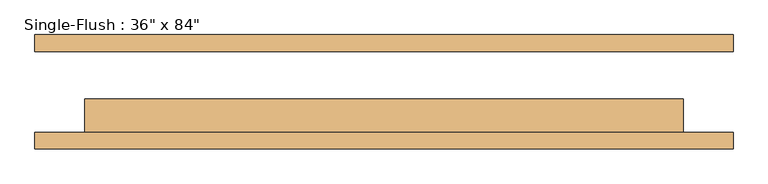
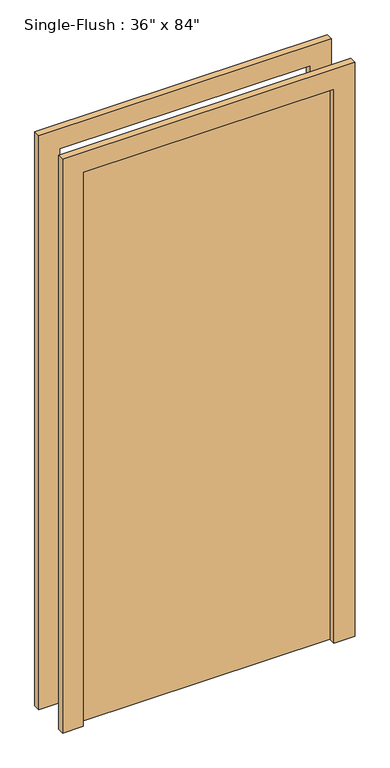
"""IFC4 building model written with IfcOpenShell, lengths in millimetres: door geometry."""

from ifc_helpers import new_model, si_unit, frame, origin, origin_with_axes, place, context, project, spatial, polyline, outline, extrude, source, transform, mapped, element, save


def door_eb9f8b14(model_context):
    return source(origin(), model_context, "Body", "SweptSolid", [
        extrude(outline(polyline([(2209.8, -533.4), (0.0, -533.4), (0.0, -457.2), (2133.6, -457.2), (2133.6, 457.2), (0.0, 457.2), (0.0, 533.4), (2209.8, 533.4), (2209.8, -533.4)])), frame((0.0, -87.3125, 0.0), z_axis=(0.0, 1.0, 0.0), x_axis=(0.0, 0.0, 1.0)), (0.0, 0.0, 1.0), 25.4),
        extrude(outline(polyline([(2209.8, 533.4), (2209.8, -533.4), (0.0, -533.4), (0.0, -457.2), (2133.6, -457.2), (2133.6, 457.2), (0.0, 457.2), (0.0, 533.4), (2209.8, 533.4)])), frame((0.0, 61.9125, 0.0), z_axis=(0.0, 1.0, 0.0), x_axis=(0.0, 0.0, 1.0)), (0.0, 0.0, 1.0), 25.4),
        extrude(outline(polyline([(457.2, -11.1125), (457.2, -61.9125), (-457.2, -61.9125), (-457.2, -11.1125), (457.2, -11.1125)])), origin_with_axes(), (0.0, 0.0, 1.0), 2133.6),
    ])


if __name__ == "__main__":
    model = new_model("IFC4")
    model_context = context("Model", 3, world=origin())
    ifc_project = project(units=[si_unit("LENGTHUNIT", "METRE", prefix="MILLI")], contexts=[model_context])
    site = spatial("IfcSite", under=ifc_project)
    building = spatial("IfcBuilding", under=site)
    placement = place(None, origin())
    door_shape = door_eb9f8b14(model_context)
    element("IfcDoor", 1, ObjectType="Single-Flush : 36\" x 84\"", at=placement, inside=building, context=model_context, shape_type="MappedRepresentation", body=[
        mapped(door_shape, transform((0.0, 0.0, 0.0), x_axis=(1.0, 0.0, 0.0), y_axis=(0.0, 1.0, 0.0), z_axis=(0.0, 0.0, 1.0))),
    ])
    save(model, "model.ifc")
